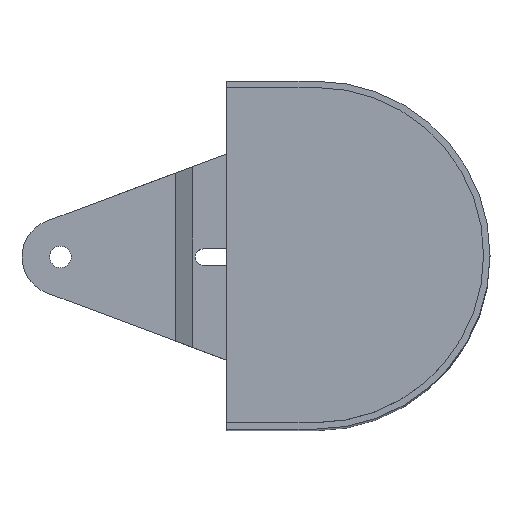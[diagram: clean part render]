
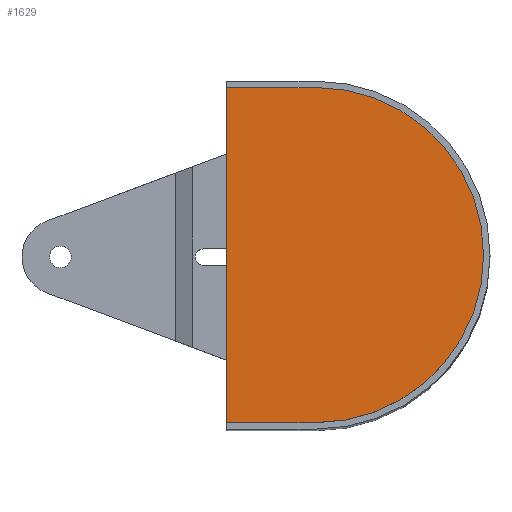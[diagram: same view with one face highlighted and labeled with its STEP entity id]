
A CAD part, top view. The second image highlights one B-rep face of the part: STEP entity #1629.
In plain terms, the highlighted planar face has unit normal (0, 0, 1).
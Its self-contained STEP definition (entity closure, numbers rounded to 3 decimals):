
#21 = DIRECTION ( 'NONE',  ( 1., 0., 0. ) ) ;
#62 = DIRECTION ( 'NONE',  ( 0., 0., 1. ) ) ;
#89 = EDGE_CURVE ( 'NONE', #2316, #400, #895, .T. ) ;
#154 = CARTESIAN_POINT ( 'NONE',  ( -103., -65.5, 211.5 ) ) ;
#220 = ORIENTED_EDGE ( 'NONE', *, *, #1409, .T. ) ;
#368 = VECTOR ( 'NONE', #680, 1000. ) ;
#400 = VERTEX_POINT ( 'NONE', #1187 ) ;
#422 = CARTESIAN_POINT ( 'NONE',  ( -103., 65.5, 211.5 ) ) ;
#466 = EDGE_CURVE ( 'NONE', #1406, #2316, #1337, .T. ) ;
#506 = LINE ( 'NONE', #422, #1643 ) ;
#508 = FACE_OUTER_BOUND ( 'NONE', #1293, .T. ) ;
#569 = EDGE_CURVE ( 'NONE', #1035, #1406, #506, .T. ) ;
#580 = PLANE ( 'NONE',  #1274 ) ;
#603 = DIRECTION ( 'NONE',  ( 0., -1., 0. ) ) ;
#680 = DIRECTION ( 'NONE',  ( -1., 0., 0. ) ) ;
#705 = VECTOR ( 'NONE', #2360, 1000. ) ;
#724 = ORIENTED_EDGE ( 'NONE', *, *, #569, .T. ) ;
#785 = CARTESIAN_POINT ( 'NONE',  ( -68., 0., 211.5 ) ) ;
#891 = CARTESIAN_POINT ( 'NONE',  ( -68., 65.5, 211.5 ) ) ;
#895 = CIRCLE ( 'NONE', #1667, 65.5 ) ;
#1035 = VERTEX_POINT ( 'NONE', #2340 ) ;
#1081 = CARTESIAN_POINT ( 'NONE',  ( -103., -65.5, 211.5 ) ) ;
#1187 = CARTESIAN_POINT ( 'NONE',  ( -68., 65.5, 211.5 ) ) ;
#1274 = AXIS2_PLACEMENT_3D ( 'NONE', #785, #62, #2057 ) ;
#1293 = EDGE_LOOP ( 'NONE', ( #220, #724, #2087, #1714 ) ) ;
#1304 = CARTESIAN_POINT ( 'NONE',  ( -68., 0., 211.5 ) ) ;
#1337 = LINE ( 'NONE', #1081, #705 ) ;
#1343 = CARTESIAN_POINT ( 'NONE',  ( -68., -65.5, 211.5 ) ) ;
#1406 = VERTEX_POINT ( 'NONE', #154 ) ;
#1409 = EDGE_CURVE ( 'NONE', #400, #1035, #2307, .T. ) ;
#1475 = DIRECTION ( 'NONE',  ( 0., 0., 1. ) ) ;
#1629 = ADVANCED_FACE ( 'NONE', ( #508 ), #580, .T. ) ;
#1643 = VECTOR ( 'NONE', #603, 1000. ) ;
#1667 = AXIS2_PLACEMENT_3D ( 'NONE', #1304, #1475, #21 ) ;
#1714 = ORIENTED_EDGE ( 'NONE', *, *, #89, .T. ) ;
#2057 = DIRECTION ( 'NONE',  ( 1., 0., 0. ) ) ;
#2087 = ORIENTED_EDGE ( 'NONE', *, *, #466, .T. ) ;
#2307 = LINE ( 'NONE', #891, #368 ) ;
#2316 = VERTEX_POINT ( 'NONE', #1343 ) ;
#2340 = CARTESIAN_POINT ( 'NONE',  ( -103., 65.5, 211.5 ) ) ;
#2360 = DIRECTION ( 'NONE',  ( 1., 0., 0. ) ) ;
